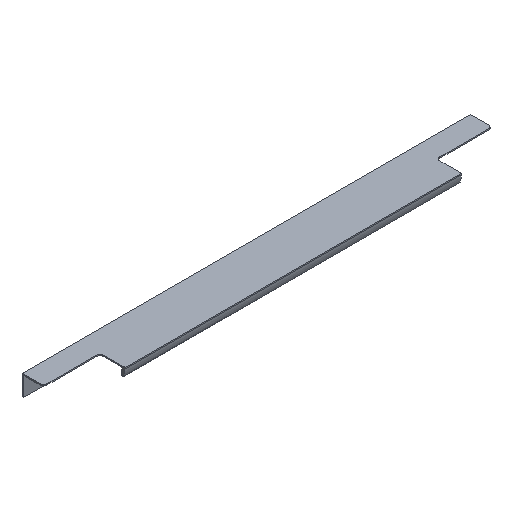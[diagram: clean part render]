
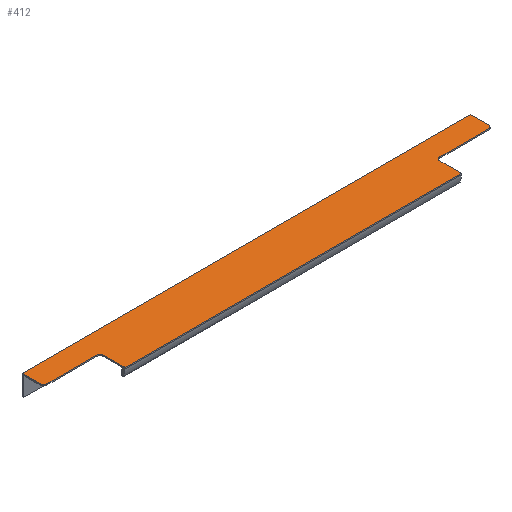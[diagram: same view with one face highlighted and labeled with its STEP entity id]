
A CAD part, isometric view. The second image highlights one B-rep face of the part: STEP entity #412.
In plain terms, the highlighted planar face has unit normal (0, 0, 1).
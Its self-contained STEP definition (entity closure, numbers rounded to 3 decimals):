
#32=PLANE('',#469);
#53=FACE_OUTER_BOUND('',#78,.T.);
#78=EDGE_LOOP('',(#363,#364,#365,#366,#367,#368,#369,#370,#371,#372,#373,
#374));
#88=LINE('',#621,#129);
#101=LINE('',#656,#142);
#105=LINE('',#667,#146);
#107=LINE('',#671,#148);
#110=LINE('',#677,#151);
#114=LINE('',#689,#155);
#118=LINE('',#699,#159);
#120=LINE('',#702,#161);
#129=VECTOR('',#503,10.);
#142=VECTOR('',#534,10.);
#146=VECTOR('',#546,10.);
#148=VECTOR('',#550,10.);
#151=VECTOR('',#555,10.);
#155=VECTOR('',#567,10.);
#159=VECTOR('',#579,10.);
#161=VECTOR('',#583,10.);
#171=CIRCLE('',#452,3.);
#173=CIRCLE('',#456,3.);
#175=CIRCLE('',#462,3.);
#177=CIRCLE('',#466,3.);
#189=VERTEX_POINT('',#618);
#190=VERTEX_POINT('',#620);
#200=VERTEX_POINT('',#647);
#201=VERTEX_POINT('',#649);
#203=VERTEX_POINT('',#655);
#205=VERTEX_POINT('',#661);
#206=VERTEX_POINT('',#666);
#207=VERTEX_POINT('',#670);
#209=VERTEX_POINT('',#676);
#211=VERTEX_POINT('',#682);
#213=VERTEX_POINT('',#688);
#215=VERTEX_POINT('',#694);
#230=EDGE_CURVE('',#190,#189,#88,.T.);
#244=EDGE_CURVE('',#201,#200,#171,.T.);
#247=EDGE_CURVE('',#203,#201,#101,.T.);
#250=EDGE_CURVE('',#205,#203,#173,.T.);
#253=EDGE_CURVE('',#206,#205,#105,.T.);
#255=EDGE_CURVE('',#207,#206,#107,.T.);
#258=EDGE_CURVE('',#209,#207,#110,.T.);
#261=EDGE_CURVE('',#211,#209,#175,.T.);
#264=EDGE_CURVE('',#213,#211,#114,.T.);
#267=EDGE_CURVE('',#215,#213,#177,.T.);
#270=EDGE_CURVE('',#189,#215,#118,.T.);
#272=EDGE_CURVE('',#200,#190,#120,.T.);
#363=ORIENTED_EDGE('',*,*,#272,.T.);
#364=ORIENTED_EDGE('',*,*,#230,.T.);
#365=ORIENTED_EDGE('',*,*,#270,.T.);
#366=ORIENTED_EDGE('',*,*,#267,.T.);
#367=ORIENTED_EDGE('',*,*,#264,.T.);
#368=ORIENTED_EDGE('',*,*,#261,.T.);
#369=ORIENTED_EDGE('',*,*,#258,.T.);
#370=ORIENTED_EDGE('',*,*,#255,.T.);
#371=ORIENTED_EDGE('',*,*,#253,.T.);
#372=ORIENTED_EDGE('',*,*,#250,.T.);
#373=ORIENTED_EDGE('',*,*,#247,.T.);
#374=ORIENTED_EDGE('',*,*,#244,.T.);
#412=ADVANCED_FACE('',(#53),#32,.T.);
#452=AXIS2_PLACEMENT_3D('',#650,#528,#529);
#456=AXIS2_PLACEMENT_3D('',#662,#540,#541);
#462=AXIS2_PLACEMENT_3D('',#683,#561,#562);
#466=AXIS2_PLACEMENT_3D('',#695,#573,#574);
#469=AXIS2_PLACEMENT_3D('',#703,#584,#585);
#503=DIRECTION('',(-1.,0.,0.));
#528=DIRECTION('center_axis',(0.,0.,1.));
#529=DIRECTION('ref_axis',(0.,-1.,0.));
#534=DIRECTION('',(1.,0.,0.));
#540=DIRECTION('center_axis',(0.,0.,-1.));
#541=DIRECTION('ref_axis',(0.,-1.,0.));
#546=DIRECTION('',(0.,1.,0.));
#550=DIRECTION('',(1.,0.,0.));
#555=DIRECTION('',(0.,-1.,0.));
#561=DIRECTION('center_axis',(0.,0.,-1.));
#562=DIRECTION('ref_axis',(-1.,0.,0.));
#567=DIRECTION('',(1.,0.,0.));
#573=DIRECTION('center_axis',(0.,0.,1.));
#574=DIRECTION('ref_axis',(-1.,0.,0.));
#579=DIRECTION('',(0.,-1.,0.));
#583=DIRECTION('',(0.,1.,0.));
#584=DIRECTION('center_axis',(0.,0.,1.));
#585=DIRECTION('ref_axis',(1.,0.,0.));
#618=CARTESIAN_POINT('',(2.,58.735,1.));
#620=CARTESIAN_POINT('',(398.,58.735,1.));
#621=CARTESIAN_POINT('',(398.,58.735,1.));
#647=CARTESIAN_POINT('',(398.,42.735,1.));
#649=CARTESIAN_POINT('',(395.,39.735,1.));
#650=CARTESIAN_POINT('Origin',(395.,42.735,1.));
#655=CARTESIAN_POINT('',(352.,39.735,1.));
#656=CARTESIAN_POINT('',(352.,39.735,1.));
#661=CARTESIAN_POINT('',(349.,36.735,1.));
#662=CARTESIAN_POINT('Origin',(352.,36.735,1.));
#666=CARTESIAN_POINT('',(349.,17.735,1.));
#667=CARTESIAN_POINT('',(349.,17.735,1.));
#670=CARTESIAN_POINT('',(52.,17.735,1.));
#671=CARTESIAN_POINT('',(52.,17.735,1.));
#676=CARTESIAN_POINT('',(52.,36.735,1.));
#677=CARTESIAN_POINT('',(52.,36.735,1.));
#682=CARTESIAN_POINT('',(49.,39.735,1.));
#683=CARTESIAN_POINT('Origin',(49.,36.735,1.));
#688=CARTESIAN_POINT('',(5.,39.735,1.));
#689=CARTESIAN_POINT('',(5.,39.735,1.));
#694=CARTESIAN_POINT('',(2.,42.735,1.));
#695=CARTESIAN_POINT('Origin',(5.,42.735,1.));
#699=CARTESIAN_POINT('',(2.,58.735,1.));
#702=CARTESIAN_POINT('',(398.,42.735,1.));
#703=CARTESIAN_POINT('Origin',(200.,38.235,1.));
